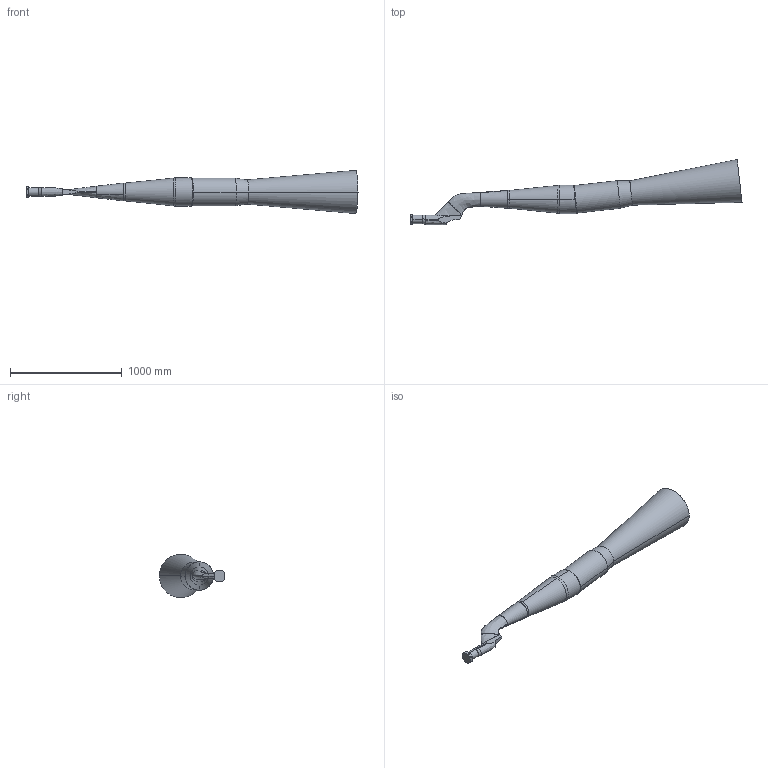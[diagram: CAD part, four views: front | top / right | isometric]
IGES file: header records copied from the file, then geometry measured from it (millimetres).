
Global section: file name: P:\prj1.0\stings_rivers\working\ug\AMES_sting\NTF_STING_CLEAN_3_25_2010.igs; native system: NX V7.0; preprocessor: SIEMENS PLM Software NX 7.0; date: 20100325.093119; units: inch
Bounding box: 2973.25 x 583.77 x 386.55 mm (x, y, z)
Surface area: 2181959.7 mm2 (no closed solid volume)
Topology: 0 solids, 0 shells, 54 faces, 412 edges, 412 vertices
Faces by surface type: bspline 54
